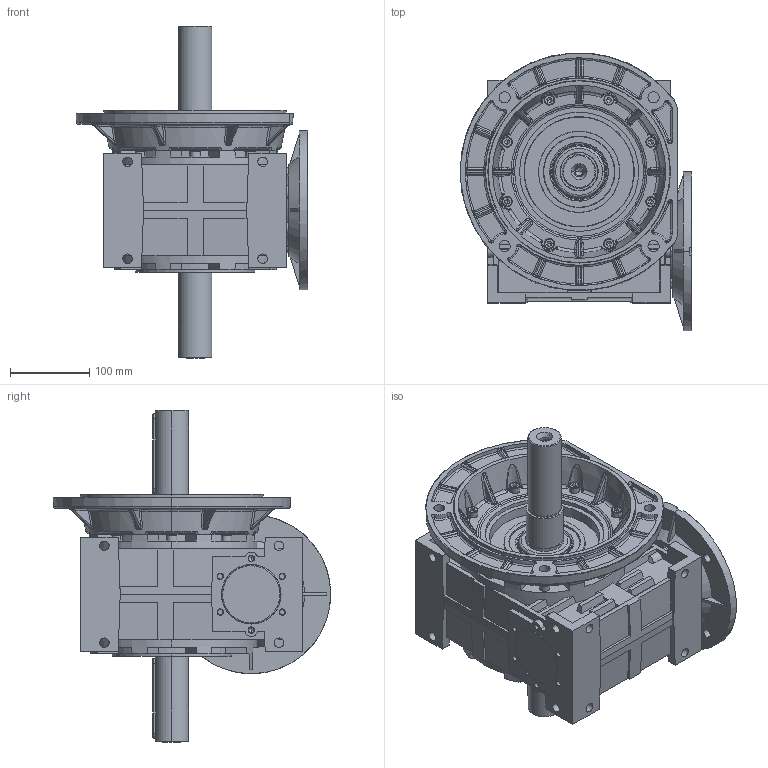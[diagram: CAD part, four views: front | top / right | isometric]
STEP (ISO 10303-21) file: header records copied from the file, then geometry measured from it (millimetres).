
FILE_DESCRIPTION (( 'STEP AP203' ), '1' );
FILE_NAME ('MR-100_200-19-K300_2-WD-2-3D.STEP', '2023-09-29T07:28:33', ( '' ), ( '' ), 'SwSTEP 2.0', 'SolidWorks 2022', '' );
FILE_SCHEMA (( 'CONFIG_CONTROL_DESIGN' ));
Products named in the file (1): MR-100_200-19-K300_2-WD-2-3D
Bounding box: 291.87 x 349.68 x 418 mm (x, y, z)
Volume: 9080835.1 mm3; surface area: 687594.3 mm2
Topology: 1 solids, 35 shells, 2531 faces, 6120 edges, 3712 vertices
Faces by surface type: plane 986, cylinder 473, bspline 432, cone 371, torus 233, sphere 36
Entity records: 93836 total; most frequent: CARTESIAN_POINT 37681, ORIENTED_EDGE 12092, DIRECTION 11284, EDGE_CURVE 6046, AXIS2_PLACEMENT_3D 4468, VERTEX_POINT 3712, EDGE_LOOP 2746, FACE_OUTER_BOUND 2531
